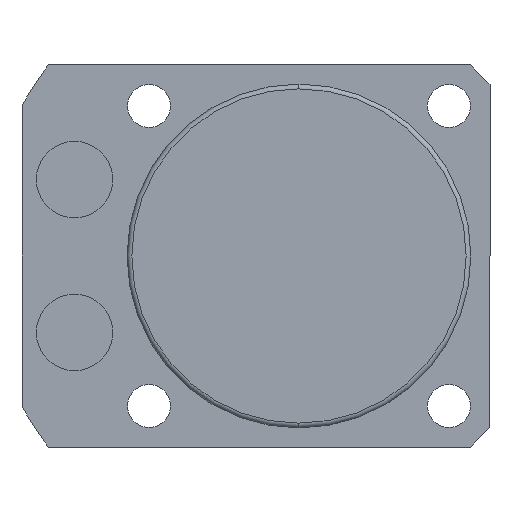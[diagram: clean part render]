
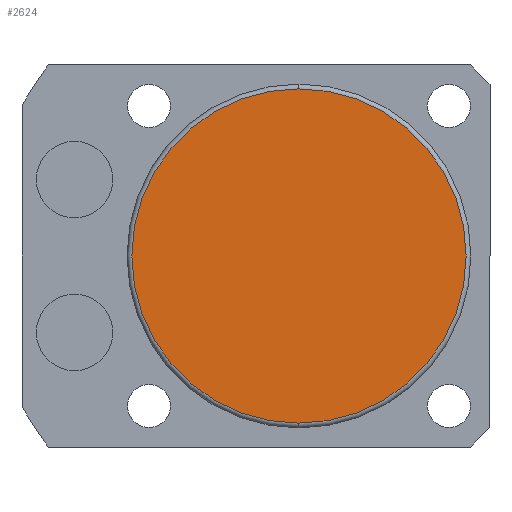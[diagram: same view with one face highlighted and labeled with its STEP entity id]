
A CAD part, front view. The second image highlights one B-rep face of the part: STEP entity #2624.
In plain terms, the highlighted planar face has unit normal (0, -1, 0).
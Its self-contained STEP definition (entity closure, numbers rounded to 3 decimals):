
#29 = FACE_OUTER_BOUND ( 'NONE', #295, .T. ) ;
#139 = ORIENTED_EDGE ( 'NONE', *, *, #1513, .T. ) ;
#176 = CARTESIAN_POINT ( 'NONE',  ( 0., -120.5, 0. ) ) ;
#295 = EDGE_LOOP ( 'NONE', ( #4766, #139 ) ) ;
#320 = CARTESIAN_POINT ( 'NONE',  ( 0., -120.5, -17.5 ) ) ;
#562 = CIRCLE ( 'NONE', #2401, 17.5 ) ;
#662 = DIRECTION ( 'NONE',  ( 0., -1., 0. ) ) ;
#901 = VERTEX_POINT ( 'NONE', #4017 ) ;
#1156 = DIRECTION ( 'NONE',  ( 0., -1., 0. ) ) ;
#1196 = CARTESIAN_POINT ( 'NONE',  ( 0., -120.5, 0. ) ) ;
#1370 = DIRECTION ( 'NONE',  ( 0., 0., -1. ) ) ;
#1417 = AXIS2_PLACEMENT_3D ( 'NONE', #1196, #1156, #3431 ) ;
#1513 = EDGE_CURVE ( 'NONE', #901, #3880, #4292, .T. ) ;
#2096 = DIRECTION ( 'NONE',  ( 0., 0., -1. ) ) ;
#2401 = AXIS2_PLACEMENT_3D ( 'NONE', #176, #3627, #2096 ) ;
#2434 = EDGE_CURVE ( 'NONE', #3880, #901, #562, .T. ) ;
#2589 = CARTESIAN_POINT ( 'NONE',  ( 0., -120.5, 0. ) ) ;
#2624 = ADVANCED_FACE ( 'NONE', ( #29 ), #3716, .T. ) ;
#3431 = DIRECTION ( 'NONE',  ( 0., 0., -1. ) ) ;
#3627 = DIRECTION ( 'NONE',  ( 0., -1., 0. ) ) ;
#3716 = PLANE ( 'NONE',  #4688 ) ;
#3880 = VERTEX_POINT ( 'NONE', #320 ) ;
#4017 = CARTESIAN_POINT ( 'NONE',  ( 0., -120.5, 17.5 ) ) ;
#4292 = CIRCLE ( 'NONE', #1417, 17.5 ) ;
#4688 = AXIS2_PLACEMENT_3D ( 'NONE', #2589, #662, #1370 ) ;
#4766 = ORIENTED_EDGE ( 'NONE', *, *, #2434, .T. ) ;
